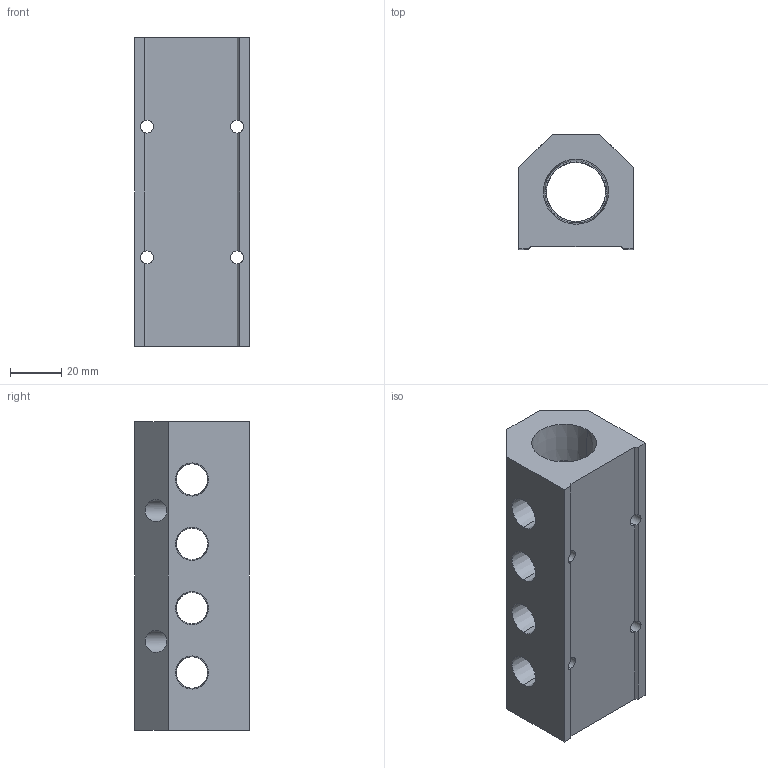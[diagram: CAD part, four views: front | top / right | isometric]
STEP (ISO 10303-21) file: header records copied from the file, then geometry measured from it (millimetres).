
FILE_DESCRIPTION (( 'STEP AP214' ), '1' );
FILE_NAME ('ALM4ACE-N4N12-120B.step', '2022-02-06T14:10:26', ( '' ), ( '' ), 'SwSTEP 2.0', 'SolidWorks 2020', '' );
FILE_SCHEMA (( 'AUTOMOTIVE_DESIGN' ));
Length unit declared in the file: millimetre
Products named in the file (1): ALM4ACE-N4N12-120B
Bounding box: 44.5 x 44.5 x 120 mm (x, y, z)
Volume: 140770.6 mm3; surface area: 35754.5 mm2
Topology: 1 solids, 1 shells, 333 faces, 906 edges, 596 vertices
Faces by surface type: plane 229, bspline 46, cone 34, cylinder 24
Entity records: 14962 total; most frequent: CARTESIAN_POINT 6578, ORIENTED_EDGE 1812, DIRECTION 1378, EDGE_CURVE 906, VECTOR 650, LINE 650, VERTEX_POINT 596, EDGE_LOOP 388
